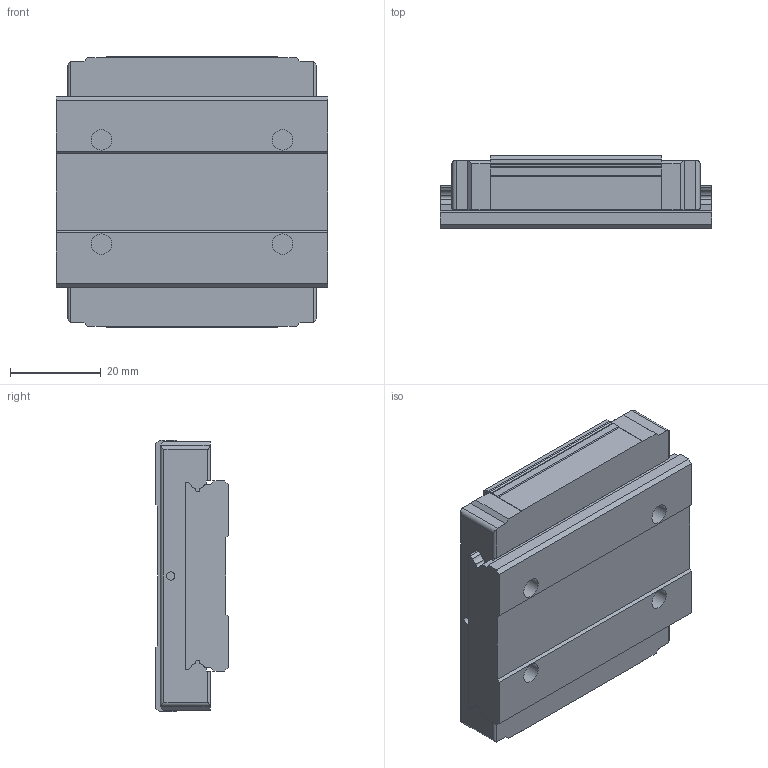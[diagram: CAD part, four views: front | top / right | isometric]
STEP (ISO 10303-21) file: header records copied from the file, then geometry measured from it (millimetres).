
FILE_DESCRIPTION( ( 'STEP AP214' ), '1' );
FILE_NAME( 'G:/品牌/AZI工艺/滑块/GGC/GGC15AK.stp', '2024-01-19T03:40:36', ( 'License CC BY-ND 4.0' ), ( 'CADENAS' ), ' ', 'PARTsolutions', ' ' );
FILE_SCHEMA( ( 'AUTOMOTIVE_DESIGN { 1 0 10303 214 1 1 1 1 }' ) );
Length unit declared in the file: millimetre
Products named in the file (3): ZCEW16-60-(30-0-0); _ZTCEW16-60; _ZZCEW16
Assembly tree (2 placements, depth 2):
  ZCEW16-60-(30-0-0)
    _ZTCEW16-60
    _ZZCEW16
Bounding box: 60 x 16 x 60 mm (x, y, z)
Volume: 46675.9 mm3; surface area: 17479.2 mm2
Topology: 2 solids, 2 shells, 122 faces, 328 edges, 216 vertices
Faces by surface type: plane 71, cylinder 43, cone 8
Full cylindrical faces by diameter (mm): 1.8 x2, 3.242 x4, 4.5 x4, 8 x4
Entity records: 4782 total; most frequent: CARTESIAN_POINT 715, DIRECTION 626, ORIENTED_EDGE 604, EDGE_CURVE 302, VERTEX_POINT 216, LINE 212, VECTOR 212, AXIS2_PLACEMENT_3D 207
